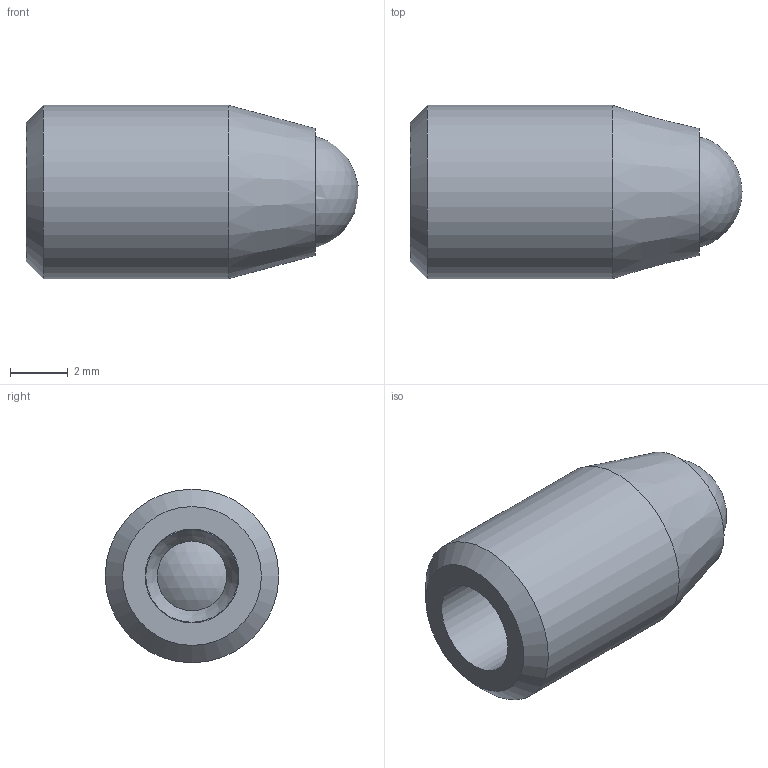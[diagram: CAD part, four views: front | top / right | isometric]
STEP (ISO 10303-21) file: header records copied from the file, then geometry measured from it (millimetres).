
FILE_DESCRIPTION( ( 'Unknown' ), '1' );
FILE_NAME( 'Z:/bereich/BECH/Services/me_CAD/Solid Edge/Models/Dokumentationen/Opto/Zubehör/Vereinfachte Modelle/Neutralformate/10119909.stp', 'Unknown', ( 'Unknown' ), ( 'Unknown' ), 'PSStep 10.0', 'Unknown', ' ' );
FILE_SCHEMA( ( 'AUTOMOTIVE_DESIGN { 1 0 10303 214 1 1 1 1 }' ) );
Length unit declared in the file: millimetre
Products named in the file (1): 119808
Bounding box: 11.49 x 6 x 6 mm (x, y, z)
Volume: 213.2 mm3; surface area: 310.5 mm2
Topology: 1 solids, 1 shells, 13 faces, 25 edges, 15 vertices
Faces by surface type: cylinder 5, cone 3, plane 3, sphere 2
Full cylindrical faces by diameter (mm): 2.4 x1, 3.2 x1, 3.242 x1, 4 x1, 6 x1
Entity records: 374 total; most frequent: DIRECTION 52, CARTESIAN_POINT 38, AXIS2_PLACEMENT_3D 26, EDGE_LOOP 24, ORIENTED_EDGE 24, FACE_OUTER_BOUND 18, STYLED_ITEM 13, PRESENTATION_STYLE_ASSIGNMENT 13
